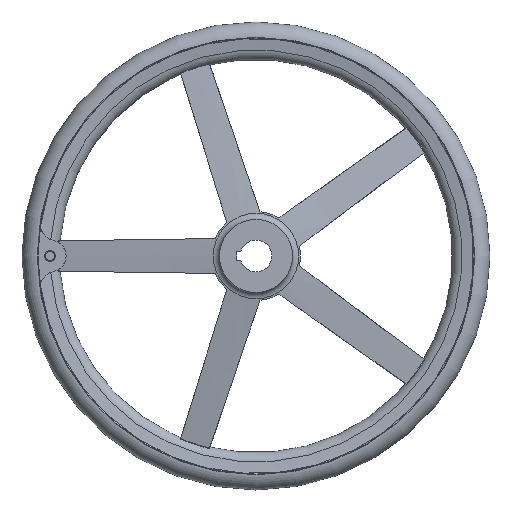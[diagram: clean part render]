
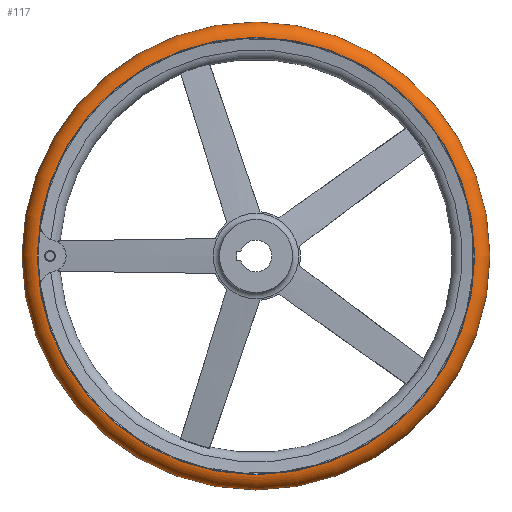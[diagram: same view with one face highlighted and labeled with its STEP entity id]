
A CAD part, left-side view. The second image highlights one B-rep face of the part: STEP entity #117.
In plain terms, the highlighted toroidal (fillet/blend) face has major radius 232.985 mm and minor radius 17.015 mm.
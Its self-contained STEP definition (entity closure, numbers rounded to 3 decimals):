
#117 = ADVANCED_FACE( '', ( #246, #247, #248 ), #249, .T. );
#246 = FACE_BOUND( '', #440, .T. );
#247 = FACE_OUTER_BOUND( '', #441, .T. );
#248 = FACE_OUTER_BOUND( '', #442, .T. );
#249 = TOROIDAL_SURFACE( '', #443, 232.985, 17.015 );
#440 = VERTEX_LOOP( '', #860 );
#441 = EDGE_LOOP( '', ( #861 ) );
#442 = EDGE_LOOP( '', ( #862 ) );
#443 = AXIS2_PLACEMENT_3D( '', #863, #864, #865 );
#860 = VERTEX_POINT( '', #1184 );
#861 = ORIENTED_EDGE( '', *, *, #1185, .T. );
#862 = ORIENTED_EDGE( '', *, *, #1186, .F. );
#863 = CARTESIAN_POINT( '', ( 55., 0., 0. ) );
#864 = DIRECTION( '', ( 1., 0., 0. ) );
#865 = DIRECTION( '', ( 0., 1., 0. ) );
#1184 = CARTESIAN_POINT( '', ( 55., 250., 0. ) );
#1185 = EDGE_CURVE( '', #1466, #1466, #1467, .T. );
#1186 = EDGE_CURVE( '', #1468, #1468, #1469, .T. );
#1466 = VERTEX_POINT( '', #2390 );
#1467 = CIRCLE( '', #2391, 233.708 );
#1468 = VERTEX_POINT( '', #2392 );
#1469 = CIRCLE( '', #2393, 233.708 );
#2390 = CARTESIAN_POINT( '', ( 38., 233.708, 0. ) );
#2391 = AXIS2_PLACEMENT_3D( '', #2671, #2672, #2673 );
#2392 = CARTESIAN_POINT( '', ( 72., 233.708, 0. ) );
#2393 = AXIS2_PLACEMENT_3D( '', #2674, #2675, #2676 );
#2671 = CARTESIAN_POINT( '', ( 38., 0., 0. ) );
#2672 = DIRECTION( '', ( 1., 0., 0. ) );
#2673 = DIRECTION( '', ( 0., 1., 0. ) );
#2674 = CARTESIAN_POINT( '', ( 72., 0., 0. ) );
#2675 = DIRECTION( '', ( 1., 0., 0. ) );
#2676 = DIRECTION( '', ( 0., 1., 0. ) );
